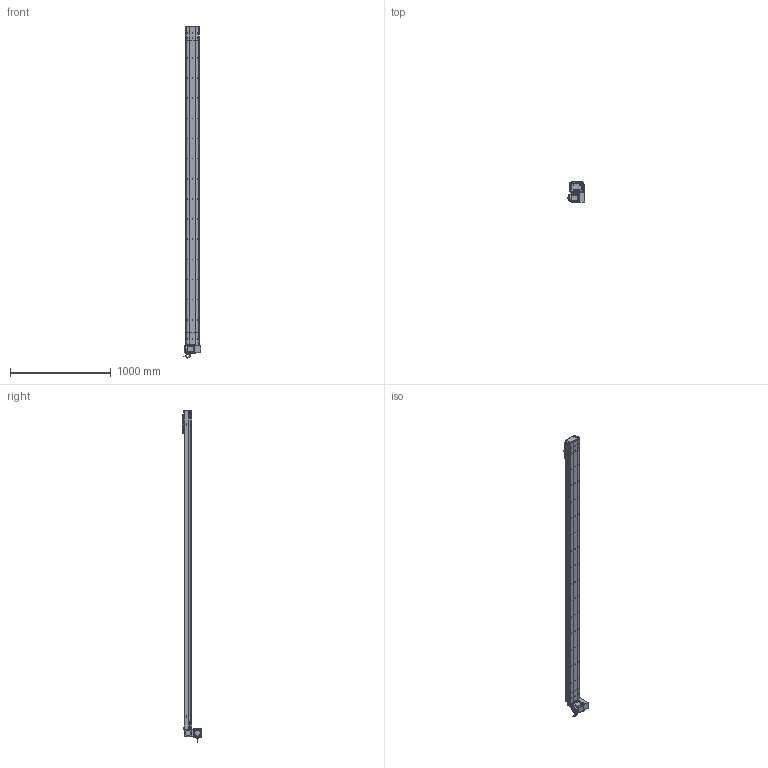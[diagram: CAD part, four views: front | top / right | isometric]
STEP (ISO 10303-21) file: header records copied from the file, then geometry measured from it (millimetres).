
FILE_DESCRIPTION (( 'STEP AP214' ), '1' );
FILE_NAME ('D14 CBH S2900 LU.STEP', '2010-06-30T07:40:24', ( 'Conseil Régional Haute-Normandie' ), ( 'Conseil Régional Haute-Normandie' ), 'SwSTEP 2.0', 'SolidWorks 2010', '' );
FILE_SCHEMA (( 'AUTOMOTIVE_DESIGN' ));
Length unit declared in the file: millimetre
Products named in the file (28): chariot supérieur D14; corps CBH S2900; D14 CBH S2900 LU; Course CBH S2900; couvercle CBH S2900; vis CHC M7; corps Head D14 CBH; couvercle Head D14 CBH; plaque de bout Head D14 CBH; plaque fermeture Head D14 CBH; GMB 90 70 310; plaque de maintient CBH D14; Vis CHC M8; Support moteur Head D14 CBH; avant GMB 90 70 310; Tail CBH D14 A; Conecteur2_Default; corps tail  CBH d14 A; Conecteur_Default; plaque de bout tail CBH d14; couvercle tail CBH D14; chariot D14; charriot inférieur D14; Head D14 CBH; corps GMB 90 70 310; codeur GMB 90 70 310; vis CHC M5; Head D14 CBH LU
Assembly tree (51 placements, depth 4):
  D14 CBH S2900 LU
    Course CBH S2900
      corps CBH S2900
      couvercle CBH S2900
    Tail CBH D14 A
      plaque de bout tail CBH d14
      plaque de maintient CBH D14
      vis CHC M7  x4
      corps tail  CBH d14 A
      couvercle tail CBH D14
      Vis CHC M8  x2
    Head D14 CBH LU
      Support moteur Head D14 CBH
      Head D14 CBH
        plaque de maintient CBH D14
        corps Head D14 CBH
        couvercle Head D14 CBH
        vis CHC M7  x4
        Vis CHC M8  x2
        plaque de bout Head D14 CBH
      plaque fermeture Head D14 CBH  x3
      GMB 90 70 310
        codeur GMB 90 70 310
        Conecteur2_Default
        corps GMB 90 70 310
        avant GMB 90 70 310
        Conecteur_Default
    chariot D14
      vis CHC M7  x8
      charriot inférieur D14
      vis CHC M5  x4
      chariot supérieur D14
Bounding box: 171.5 x 195.75 x 3295.95 mm (x, y, z)
Volume: 8838418.4 mm3; surface area: 3053399.3 mm2
Topology: 51 solids, 51 shells, 2522 faces, 6558 edges, 4306 vertices
Faces by surface type: plane 1371, bspline 538, cylinder 500, torus 61, cone 48, sphere 4
Entity records: 111649 total; most frequent: CARTESIAN_POINT 58564, ORIENTED_EDGE 11412, DIRECTION 8759, EDGE_CURVE 5706, VERTEX_POINT 3770, VECTOR 3741, LINE 3741, AXIS2_PLACEMENT_3D 2509
